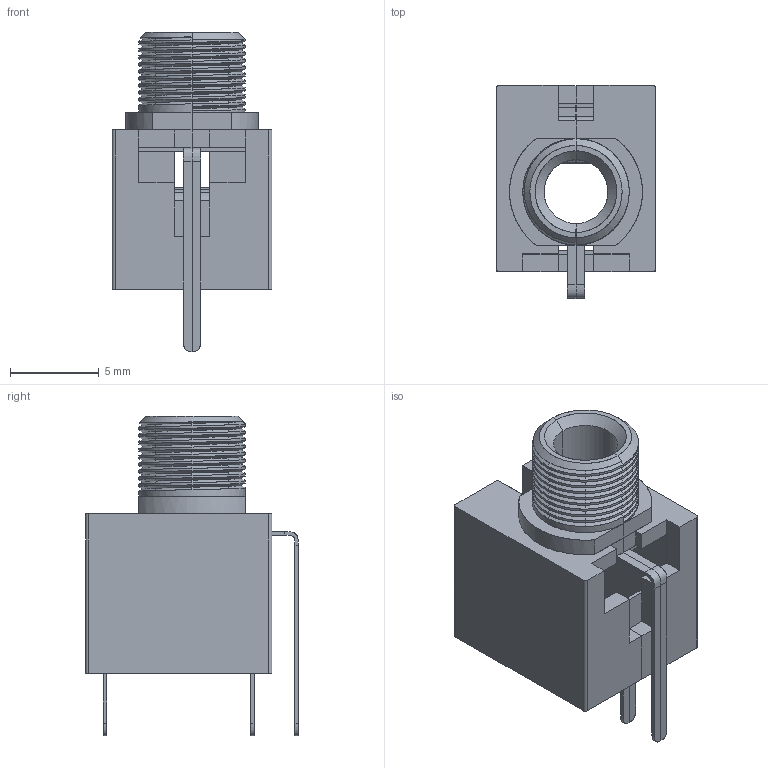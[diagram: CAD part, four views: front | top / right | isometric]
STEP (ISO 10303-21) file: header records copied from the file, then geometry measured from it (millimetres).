
FILE_DESCRIPTION(('FreeCAD Model'),'2;1');
FILE_NAME( 'E:/Modular/_horizon/pool/3d_models/connectors/audio/PJ301M-12.step', '2018-04-11T03:09:57',('Author'),(''), 'Open CASCADE STEP processor 6.8','FreeCAD','Unknown');
FILE_SCHEMA(('AUTOMOTIVE_DESIGN_CC2 { 1 2 10303 214 -1 1 5 4 }'));
Length unit declared in the file: millimetre
Products named in the file (367): ASSEMBLY; Plastik; Plastik002; Plastik003; Plastik004; Plastik001; Compound017; Compound022; Compound016; Compound020; Compound014; Compound021; Compound023; Compound019; Compound024; Compound025; Compound015; Compound018; Compound026; Compound032; Compound028; Compound031; Compound033; Compound035; Compound030; Compound036; Compound034; Compound027; Compound029; Compound128; Compound123; Compound127; Compound136; Compound138; Compound141; Compound145; Compound146; Compound129; Compound130; Compound126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
Assembly tree (366 placements, depth 2):
  ASSEMBLY
    Plastik
    Plastik002
    Plastik003
    Plastik004
    Plastik001
    Compound017
    Compound022
    Compound016
    Compound020
    Compound014
    Compound021
    Compound023
    Compound019
    Compound024
    Compound025
    Compound015
    Compound018
    Compound026
    Compound032
    Compound028
    Compound031
    Compound033
    Compound035
    Compound030
    Compound036
    Compound034
    Compound027
    Compound029
    Compound128
    Compound123
    Compound127
    Compound136
    Compound138
    Compound141
    Compound145
    Compound146
    Compound129
    Compound130
    Compound126
    Compound137
    Compound139
    Compound142
    Compound133
    Compound144
    Compound125
    Compound140
    Compound143
    Compound147
    Compound131
    Compound124
    Compound132
    Compound134
    Compound135
    Compound049
    Compound053
    Compound066
    Compound067
    Compound069
    Compound070
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Bounding box: 9 x 12 x 18 mm (x, y, z)
Surface area: 1337.2 mm2 (no closed solid volume)
Topology: 0 solids, 366 shells, 366 faces, 1656 edges, 1656 vertices
Faces by surface type: bspline 235, plane 131
Entity records: 63453 total; most frequent: CARTESIAN_POINT 35016, DIRECTION 2720, LINE 1696, VECTOR 1696, ORIENTED_EDGE 1656, EDGE_CURVE 1656, VERTEX_POINT 1656, SURFACE_CURVE 1656
